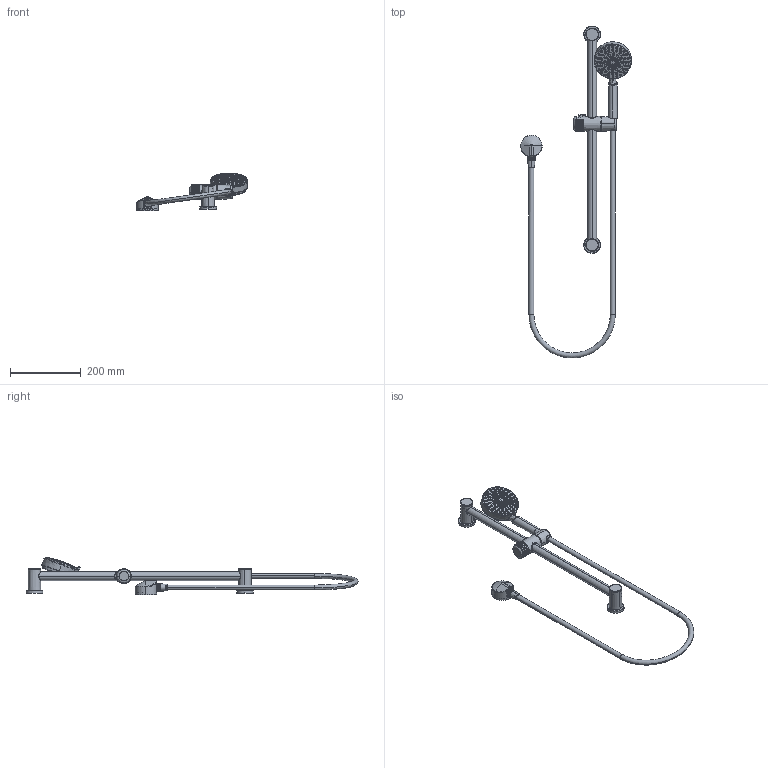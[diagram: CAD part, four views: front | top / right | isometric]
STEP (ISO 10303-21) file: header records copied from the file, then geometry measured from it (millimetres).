
FILE_DESCRIPTION (( 'STEP AP214' ), '1' );
FILE_NAME ('Hi-HED850-GM.STEP', '2021-07-22T01:14:47', ( '' ), ( '' ), 'SwSTEP 2.0', 'SolidWorks 2020', '' );
FILE_SCHEMA (( 'AUTOMOTIVE_DESIGN' ));
Length unit declared in the file: millimetre
Products named in the file (28): 9A061_ASM; 1022-1; 2F1; C31; Hi-850-S; SB; A03; A05; 850-SB_ASM; H-CJT; A01; TTH10X0D7; H-SJT; 850-FACE-ONLY; 628-WY; C12; 9A061; Hi-HED850-GM; H-QT; STANDARD-HOSE; 850-MG_ASM-FACE; C41; C1_ASM; HOSE-END-HEAD; 850_ASM; TH3X10; HOSE-END-INLET; 306-ZSL
Assembly tree (30 placements, depth 4):
  Hi-HED850-GM
    A01
    A03  x2
    A05  x2
    C1_ASM
      C41
      C31
      C12
    850_ASM
      850-SB_ASM
        SB
        628-WY
      TH3X10
      TTH10X0D7  x2
    Hi-850-S
      H-CJT
      H-SJT
      9A061_ASM
        1022-1
      H-QT
      9A061
    2F1
    HOSE-END-HEAD
    HOSE-END-INLET
    STANDARD-HOSE
    850-MG_ASM-FACE
      850-FACE-ONLY
      306-ZSL
Bounding box: 313.63 x 939.94 x 107.15 mm (x, y, z)
Volume: 497551.2 mm3; surface area: 337330.9 mm2
Topology: 23 solids, 25 shells, 2340 faces, 5809 edges, 3624 vertices
Faces by surface type: cylinder 1027, bspline 648, plane 502, cone 153, torus 7, sphere 3
Entity records: 106878 total; most frequent: CARTESIAN_POINT 56749, ORIENTED_EDGE 10958, DIRECTION 9374, EDGE_CURVE 5489, AXIS2_PLACEMENT_3D 3848, VERTEX_POINT 3460, EDGE_LOOP 2565, FACE_OUTER_BOUND 2236
